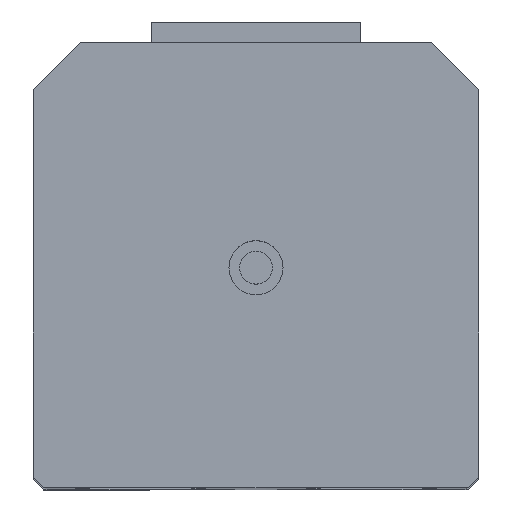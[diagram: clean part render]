
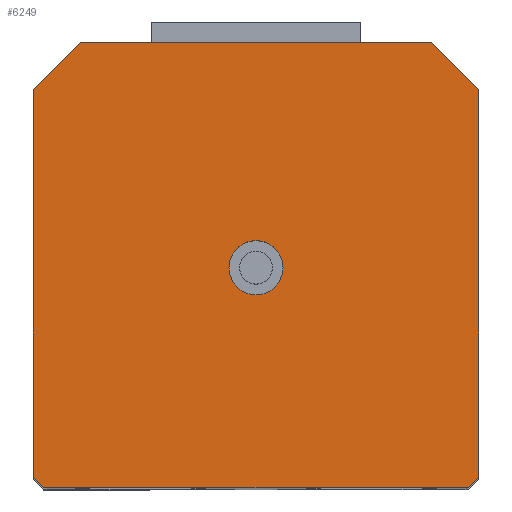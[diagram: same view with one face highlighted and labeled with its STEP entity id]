
A CAD part, top view. The second image highlights one B-rep face of the part: STEP entity #6249.
In plain terms, the highlighted planar face has unit normal (0, 0, 1).
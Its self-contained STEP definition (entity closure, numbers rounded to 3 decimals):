
#18 = DIRECTION ( 'NONE',  ( -1., 0., 0. ) ) ;
#42 = EDGE_LOOP ( 'NONE', ( #7725, #7904, #1774, #2339, #6503, #6166, #1138, #8790 ) ) ;
#438 = VERTEX_POINT ( 'NONE', #7111 ) ;
#525 = LINE ( 'NONE', #6176, #6699 ) ;
#685 = CARTESIAN_POINT ( 'NONE',  ( 21.25, -21., 60.5 ) ) ;
#820 = CARTESIAN_POINT ( 'NONE',  ( 21.25, -21., 60.5 ) ) ;
#992 = CARTESIAN_POINT ( 'NONE',  ( 20.25, -21., 60.5 ) ) ;
#1100 = FACE_BOUND ( 'NONE', #2428, .T. ) ;
#1138 = ORIENTED_EDGE ( 'NONE', *, *, #6585, .T. ) ;
#1187 = DIRECTION ( 'NONE',  ( 0.707, -0.707, 0. ) ) ;
#1207 = CARTESIAN_POINT ( 'NONE',  ( 40.25, -2., 60.5 ) ) ;
#1230 = VERTEX_POINT ( 'NONE', #7970 ) ;
#1531 = VECTOR ( 'NONE', #4027, 1000. ) ;
#1774 = ORIENTED_EDGE ( 'NONE', *, *, #7606, .T. ) ;
#1830 = VECTOR ( 'NONE', #7704, 1000. ) ;
#1841 = AXIS2_PLACEMENT_3D ( 'NONE', #5090, #2208, #2948 ) ;
#1850 = CARTESIAN_POINT ( 'NONE',  ( 0.5, -41.75, 60.5 ) ) ;
#1863 = VECTOR ( 'NONE', #1187, 1000. ) ;
#1896 = LINE ( 'NONE', #1850, #1863 ) ;
#2106 = CARTESIAN_POINT ( 'NONE',  ( 21.25, 21.5, 60.5 ) ) ;
#2208 = DIRECTION ( 'NONE',  ( 0., 0., -1. ) ) ;
#2276 = CARTESIAN_POINT ( 'NONE',  ( 21.25, -20., 60.5 ) ) ;
#2339 = ORIENTED_EDGE ( 'NONE', *, *, #6206, .T. ) ;
#2428 = EDGE_LOOP ( 'NONE', ( #8706, #5117 ) ) ;
#2479 = VERTEX_POINT ( 'NONE', #6927 ) ;
#2678 = VECTOR ( 'NONE', #5778, 1000. ) ;
#2822 = CARTESIAN_POINT ( 'NONE',  ( 0., 0., 60.5 ) ) ;
#2915 = DIRECTION ( 'NONE',  ( 0.707, 0.707, 0. ) ) ;
#2948 = DIRECTION ( 'NONE',  ( -1., 0., 0. ) ) ;
#3002 = VERTEX_POINT ( 'NONE', #6524 ) ;
#3454 = VECTOR ( 'NONE', #2915, 1000. ) ;
#3540 = DIRECTION ( 'NONE',  ( 0., 0., -1. ) ) ;
#3675 = VERTEX_POINT ( 'NONE', #992 ) ;
#3695 = CARTESIAN_POINT ( 'NONE',  ( -20.25, -21., 60.5 ) ) ;
#3707 = CARTESIAN_POINT ( 'NONE',  ( -16.75, 21.5, 60.5 ) ) ;
#3776 = EDGE_CURVE ( 'NONE', #7974, #6786, #7536, .T. ) ;
#3793 = AXIS2_PLACEMENT_3D ( 'NONE', #685, #4305, #18 ) ;
#3930 = PLANE ( 'NONE',  #3793 ) ;
#3969 = EDGE_CURVE ( 'NONE', #6786, #7090, #5557, .T. ) ;
#4017 = FACE_OUTER_BOUND ( 'NONE', #42, .T. ) ;
#4027 = DIRECTION ( 'NONE',  ( 0., -1., 0. ) ) ;
#4304 = VERTEX_POINT ( 'NONE', #3695 ) ;
#4305 = DIRECTION ( 'NONE',  ( 0., 0., 1. ) ) ;
#4358 = EDGE_CURVE ( 'NONE', #4304, #3675, #8551, .T. ) ;
#4382 = CIRCLE ( 'NONE', #4970, 2.58 ) ;
#4970 = AXIS2_PLACEMENT_3D ( 'NONE', #2822, #3540, #5664 ) ;
#4973 = EDGE_CURVE ( 'NONE', #3675, #9065, #5883, .T. ) ;
#5090 = CARTESIAN_POINT ( 'NONE',  ( 0., 0., 60.5 ) ) ;
#5117 = ORIENTED_EDGE ( 'NONE', *, *, #5954, .T. ) ;
#5154 = CARTESIAN_POINT ( 'NONE',  ( 20.75, -20.5, 60.5 ) ) ;
#5283 = LINE ( 'NONE', #6837, #1531 ) ;
#5477 = DIRECTION ( 'NONE',  ( -0.707, -0.707, 0. ) ) ;
#5518 = VECTOR ( 'NONE', #9096, 1000. ) ;
#5557 = LINE ( 'NONE', #8383, #1830 ) ;
#5664 = DIRECTION ( 'NONE',  ( -1., 0., 0. ) ) ;
#5778 = DIRECTION ( 'NONE',  ( 1., 0., 0. ) ) ;
#5883 = LINE ( 'NONE', #5154, #3454 ) ;
#5954 = EDGE_CURVE ( 'NONE', #3002, #1230, #4382, .T. ) ;
#6166 = ORIENTED_EDGE ( 'NONE', *, *, #4973, .T. ) ;
#6176 = CARTESIAN_POINT ( 'NONE',  ( -19., 19.25, 60.5 ) ) ;
#6206 = EDGE_CURVE ( 'NONE', #2479, #4304, #1896, .T. ) ;
#6249 = ADVANCED_FACE ( 'NONE', ( #4017, #1100 ), #3930, .T. ) ;
#6268 = LINE ( 'NONE', #2106, #7029 ) ;
#6503 = ORIENTED_EDGE ( 'NONE', *, *, #4358, .T. ) ;
#6524 = CARTESIAN_POINT ( 'NONE',  ( -2.58, 0., 60.5 ) ) ;
#6585 = EDGE_CURVE ( 'NONE', #9065, #7974, #6268, .T. ) ;
#6699 = VECTOR ( 'NONE', #5477, 1000. ) ;
#6786 = VERTEX_POINT ( 'NONE', #8953 ) ;
#6837 = CARTESIAN_POINT ( 'NONE',  ( -21.25, 21.5, 60.5 ) ) ;
#6927 = CARTESIAN_POINT ( 'NONE',  ( -21.25, -20., 60.5 ) ) ;
#7029 = VECTOR ( 'NONE', #9057, 1000. ) ;
#7090 = VERTEX_POINT ( 'NONE', #3707 ) ;
#7111 = CARTESIAN_POINT ( 'NONE',  ( -21.25, 17., 60.5 ) ) ;
#7536 = LINE ( 'NONE', #1207, #5518 ) ;
#7606 = EDGE_CURVE ( 'NONE', #438, #2479, #5283, .T. ) ;
#7704 = DIRECTION ( 'NONE',  ( -1., 0., 0. ) ) ;
#7725 = ORIENTED_EDGE ( 'NONE', *, *, #3969, .T. ) ;
#7904 = ORIENTED_EDGE ( 'NONE', *, *, #8214, .T. ) ;
#7970 = CARTESIAN_POINT ( 'NONE',  ( 2.58, 0., 60.5 ) ) ;
#7974 = VERTEX_POINT ( 'NONE', #9020 ) ;
#8154 = CIRCLE ( 'NONE', #1841, 2.58 ) ;
#8214 = EDGE_CURVE ( 'NONE', #7090, #438, #525, .T. ) ;
#8383 = CARTESIAN_POINT ( 'NONE',  ( 21.25, 21.5, 60.5 ) ) ;
#8551 = LINE ( 'NONE', #820, #2678 ) ;
#8698 = EDGE_CURVE ( 'NONE', #1230, #3002, #8154, .T. ) ;
#8706 = ORIENTED_EDGE ( 'NONE', *, *, #8698, .T. ) ;
#8790 = ORIENTED_EDGE ( 'NONE', *, *, #3776, .T. ) ;
#8953 = CARTESIAN_POINT ( 'NONE',  ( 16.75, 21.5, 60.5 ) ) ;
#9020 = CARTESIAN_POINT ( 'NONE',  ( 21.25, 17., 60.5 ) ) ;
#9057 = DIRECTION ( 'NONE',  ( 0., 1., 0. ) ) ;
#9065 = VERTEX_POINT ( 'NONE', #2276 ) ;
#9096 = DIRECTION ( 'NONE',  ( -0.707, 0.707, 0. ) ) ;
